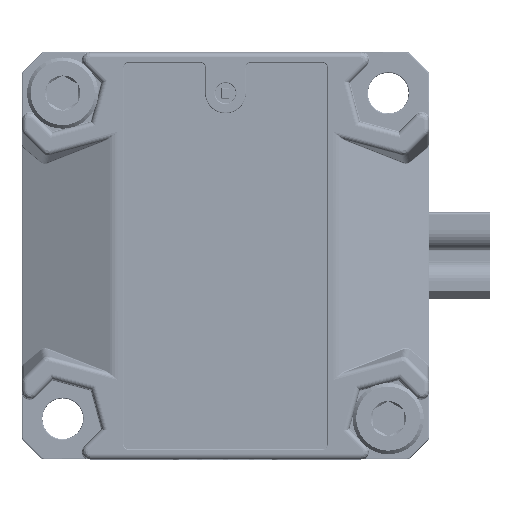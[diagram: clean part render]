
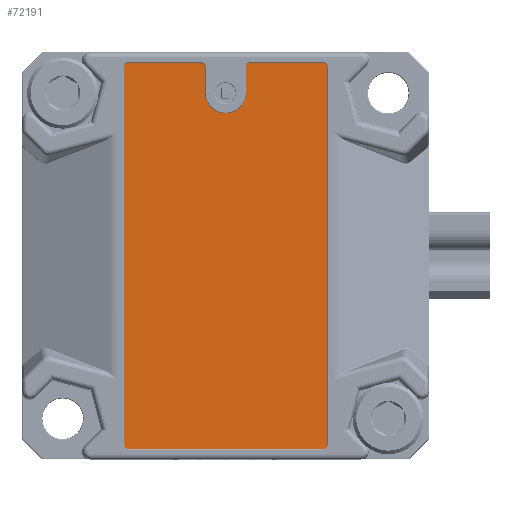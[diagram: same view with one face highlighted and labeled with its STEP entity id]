
A CAD part, top view. The second image highlights one B-rep face of the part: STEP entity #72191.
In plain terms, the highlighted planar face has unit normal (0, 0, 1).
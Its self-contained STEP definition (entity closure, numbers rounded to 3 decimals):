
#5798=PLANE('',#78003);
#9042=FACE_OUTER_BOUND('',#13650,.T.);
#13650=EDGE_LOOP('',(#61842,#61843,#61844,#61845,#61846,#61847,#61848,#61849,
#61850,#61851,#61852,#61853,#61854,#61855));
#19301=LINE('',#130273,#25536);
#19304=LINE('',#130281,#25539);
#19307=LINE('',#130289,#25542);
#19653=LINE('',#133313,#25888);
#19654=LINE('',#133315,#25889);
#19657=LINE('',#133323,#25892);
#19659=LINE('',#133329,#25894);
#25536=VECTOR('',#91470,10.);
#25539=VECTOR('',#91479,10.);
#25542=VECTOR('',#91488,10.);
#25888=VECTOR('',#93314,10.);
#25889=VECTOR('',#93317,10.);
#25892=VECTOR('',#93326,10.);
#25894=VECTOR('',#93334,10.);
#28765=CIRCLE('',#77248,0.5);
#28766=CIRCLE('',#77251,0.5);
#28767=CIRCLE('',#77254,0.5);
#28768=CIRCLE('',#77257,0.5);
#29131=CIRCLE('',#77994,0.5);
#29132=CIRCLE('',#77998,0.5);
#29133=CIRCLE('',#78001,2.);
#34487=VERTEX_POINT('',#130265);
#34488=VERTEX_POINT('',#130267);
#34489=VERTEX_POINT('',#130271);
#34490=VERTEX_POINT('',#130275);
#34491=VERTEX_POINT('',#130279);
#34492=VERTEX_POINT('',#130283);
#34493=VERTEX_POINT('',#130287);
#34494=VERTEX_POINT('',#130291);
#34981=VERTEX_POINT('',#133305);
#34982=VERTEX_POINT('',#133307);
#34983=VERTEX_POINT('',#133311);
#34984=VERTEX_POINT('',#133317);
#34985=VERTEX_POINT('',#133319);
#34986=VERTEX_POINT('',#133325);
#43314=EDGE_CURVE('',#34488,#34487,#28765,.T.);
#43317=EDGE_CURVE('',#34489,#34487,#19301,.T.);
#43319=EDGE_CURVE('',#34489,#34490,#28766,.T.);
#43321=EDGE_CURVE('',#34491,#34490,#19304,.T.);
#43323=EDGE_CURVE('',#34491,#34492,#28767,.T.);
#43325=EDGE_CURVE('',#34493,#34492,#19307,.T.);
#43327=EDGE_CURVE('',#34493,#34494,#28768,.T.);
#44166=EDGE_CURVE('',#34982,#34981,#29131,.T.);
#44169=EDGE_CURVE('',#34983,#34981,#19653,.T.);
#44170=EDGE_CURVE('',#34982,#34494,#19654,.T.);
#44172=EDGE_CURVE('',#34985,#34984,#29132,.T.);
#44174=EDGE_CURVE('',#34488,#34984,#19657,.T.);
#44176=EDGE_CURVE('',#34986,#34983,#29133,.T.);
#44177=EDGE_CURVE('',#34985,#34986,#19659,.T.);
#61842=ORIENTED_EDGE('',*,*,#43323,.T.);
#61843=ORIENTED_EDGE('',*,*,#43325,.F.);
#61844=ORIENTED_EDGE('',*,*,#43327,.T.);
#61845=ORIENTED_EDGE('',*,*,#44170,.F.);
#61846=ORIENTED_EDGE('',*,*,#44166,.T.);
#61847=ORIENTED_EDGE('',*,*,#44169,.F.);
#61848=ORIENTED_EDGE('',*,*,#44176,.F.);
#61849=ORIENTED_EDGE('',*,*,#44177,.F.);
#61850=ORIENTED_EDGE('',*,*,#44172,.T.);
#61851=ORIENTED_EDGE('',*,*,#44174,.F.);
#61852=ORIENTED_EDGE('',*,*,#43314,.T.);
#61853=ORIENTED_EDGE('',*,*,#43317,.F.);
#61854=ORIENTED_EDGE('',*,*,#43319,.T.);
#61855=ORIENTED_EDGE('',*,*,#43321,.F.);
#72191=ADVANCED_FACE('',(#9042),#5798,.T.);
#77248=AXIS2_PLACEMENT_3D('',#130268,#91464,#91465);
#77251=AXIS2_PLACEMENT_3D('',#130277,#91474,#91475);
#77254=AXIS2_PLACEMENT_3D('',#130285,#91483,#91484);
#77257=AXIS2_PLACEMENT_3D('',#130293,#91492,#91493);
#77994=AXIS2_PLACEMENT_3D('',#133308,#93308,#93309);
#77998=AXIS2_PLACEMENT_3D('',#133320,#93321,#93322);
#78001=AXIS2_PLACEMENT_3D('',#133327,#93330,#93331);
#78003=AXIS2_PLACEMENT_3D('',#133330,#93335,#93336);
#91464=DIRECTION('center_axis',(0.,0.,1.));
#91465=DIRECTION('ref_axis',(-0.707,0.707,0.));
#91470=DIRECTION('',(0.,1.,0.));
#91474=DIRECTION('center_axis',(0.,0.,1.));
#91475=DIRECTION('ref_axis',(-0.707,-0.707,0.));
#91479=DIRECTION('',(-1.,0.,0.));
#91483=DIRECTION('center_axis',(0.,0.,1.));
#91484=DIRECTION('ref_axis',(0.707,-0.707,0.));
#91488=DIRECTION('',(0.,-1.,0.));
#91492=DIRECTION('center_axis',(0.,0.,1.));
#91493=DIRECTION('ref_axis',(0.707,0.707,0.));
#93308=DIRECTION('center_axis',(0.,0.,1.));
#93309=DIRECTION('ref_axis',(-0.707,0.707,0.));
#93314=DIRECTION('',(0.,1.,0.));
#93317=DIRECTION('',(1.,0.,0.));
#93321=DIRECTION('center_axis',(0.,0.,1.));
#93322=DIRECTION('ref_axis',(0.707,0.707,0.));
#93326=DIRECTION('',(1.,0.,0.));
#93330=DIRECTION('center_axis',(0.,0.,1.));
#93331=DIRECTION('ref_axis',(-1.,0.,0.));
#93334=DIRECTION('',(0.,-1.,0.));
#93335=DIRECTION('center_axis',(0.,0.,1.));
#93336=DIRECTION('ref_axis',(-1.,0.,0.));
#130265=CARTESIAN_POINT('',(-10.,18.5,5.25));
#130267=CARTESIAN_POINT('',(-9.5,19.,5.25));
#130268=CARTESIAN_POINT('Origin',(-9.5,18.5,5.25));
#130271=CARTESIAN_POINT('',(-10.,-18.5,5.25));
#130273=CARTESIAN_POINT('',(-10.,-19.,5.25));
#130275=CARTESIAN_POINT('',(-9.5,-19.,5.25));
#130277=CARTESIAN_POINT('Origin',(-9.5,-18.5,5.25));
#130279=CARTESIAN_POINT('',(9.5,-19.,5.25));
#130281=CARTESIAN_POINT('',(10.,-19.,5.25));
#130283=CARTESIAN_POINT('',(10.,-18.5,5.25));
#130285=CARTESIAN_POINT('Origin',(9.5,-18.5,5.25));
#130287=CARTESIAN_POINT('',(10.,18.5,5.25));
#130289=CARTESIAN_POINT('',(10.,19.,5.25));
#130291=CARTESIAN_POINT('',(9.5,19.,5.25));
#130293=CARTESIAN_POINT('Origin',(9.5,18.5,5.25));
#133305=CARTESIAN_POINT('',(2.,18.5,5.25));
#133307=CARTESIAN_POINT('',(2.5,19.,5.25));
#133308=CARTESIAN_POINT('Origin',(2.5,18.5,5.25));
#133311=CARTESIAN_POINT('',(2.,16.,5.25));
#133313=CARTESIAN_POINT('',(2.,16.,5.25));
#133315=CARTESIAN_POINT('',(-10.,19.,5.25));
#133317=CARTESIAN_POINT('',(-2.5,19.,5.25));
#133319=CARTESIAN_POINT('',(-2.,18.5,5.25));
#133320=CARTESIAN_POINT('Origin',(-2.5,18.5,5.25));
#133323=CARTESIAN_POINT('',(-10.,19.,5.25));
#133325=CARTESIAN_POINT('',(-2.,16.,5.25));
#133327=CARTESIAN_POINT('Origin',(0.,16.,5.25));
#133329=CARTESIAN_POINT('',(-2.,16.,5.25));
#133330=CARTESIAN_POINT('Origin',(0.,0.,5.25));
